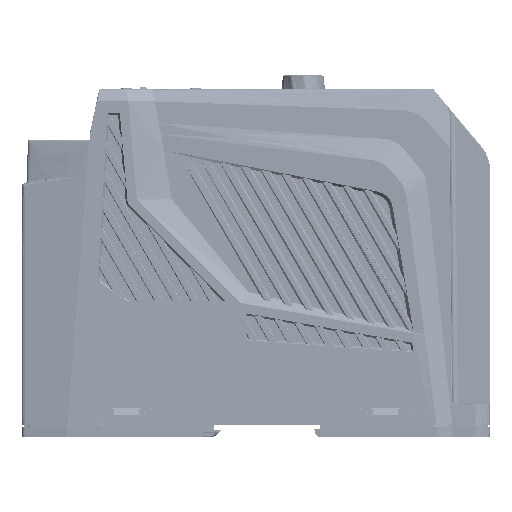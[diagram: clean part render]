
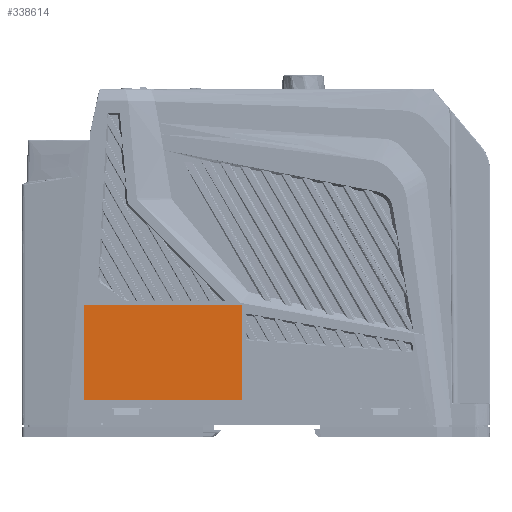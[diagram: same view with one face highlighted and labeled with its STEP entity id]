
A CAD part, left-side view. The second image highlights one B-rep face of the part: STEP entity #338614.
In plain terms, the highlighted planar face has unit normal (-1, 0, 0).
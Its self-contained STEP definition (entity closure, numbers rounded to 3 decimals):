
#338614=ADVANCED_FACE('',(#480426),#480428,.T.);
#480426=FACE_BOUND('',#480427,.T.);
#480427=EDGE_LOOP('',(#573140,#573141,#573142,#573143));
#480428=PLANE('',#480429);
#480429=AXIS2_PLACEMENT_3D('',#480430,#480431,#480432);
#480430=CARTESIAN_POINT('',(-29.1,71.,-4.8));
#480431=DIRECTION('',(-1.,0.,0.));
#480432=DIRECTION('',(0.,1.,0.));
#573140=ORIENTED_EDGE('',*,*,#666715,.F.);
#573141=ORIENTED_EDGE('',*,*,#666710,.F.);
#573142=ORIENTED_EDGE('',*,*,#666712,.F.);
#573143=ORIENTED_EDGE('',*,*,#666714,.F.);
#666710=EDGE_CURVE('',#908542,#908540,#908544,.T.);
#666712=EDGE_CURVE('',#908545,#908542,#908547,.T.);
#666714=EDGE_CURVE('',#908548,#908545,#908550,.T.);
#666715=EDGE_CURVE('',#908540,#908548,#908551,.T.);
#908540=VERTEX_POINT('',#981993);
#908542=VERTEX_POINT('',#981997);
#908544=LINE('',#982001,#982002);
#908545=VERTEX_POINT('',#982004);
#908547=LINE('',#982008,#982009);
#908548=VERTEX_POINT('',#982011);
#908550=LINE('',#982015,#982016);
#908551=LINE('',#982018,#982019);
#981993=CARTESIAN_POINT('',(-29.1,125.76,33.7));
#981997=CARTESIAN_POINT('',(-29.1,125.76,3.4));
#982001=CARTESIAN_POINT('',(-29.1,125.76,3.4));
#982002=VECTOR('',#982003,1.);
#982003=DIRECTION('',(0.,0.,1.));
#982004=CARTESIAN_POINT('',(-29.1,75.46,3.4));
#982008=CARTESIAN_POINT('',(-29.1,75.46,3.4));
#982009=VECTOR('',#982010,1.);
#982010=DIRECTION('',(0.,1.,0.));
#982011=CARTESIAN_POINT('',(-29.1,75.46,33.7));
#982015=CARTESIAN_POINT('',(-29.1,75.46,33.7));
#982016=VECTOR('',#982017,1.);
#982017=DIRECTION('',(0.,0.,-1.));
#982018=CARTESIAN_POINT('',(-29.1,125.76,33.7));
#982019=VECTOR('',#982020,1.);
#982020=DIRECTION('',(0.,-1.,0.));
